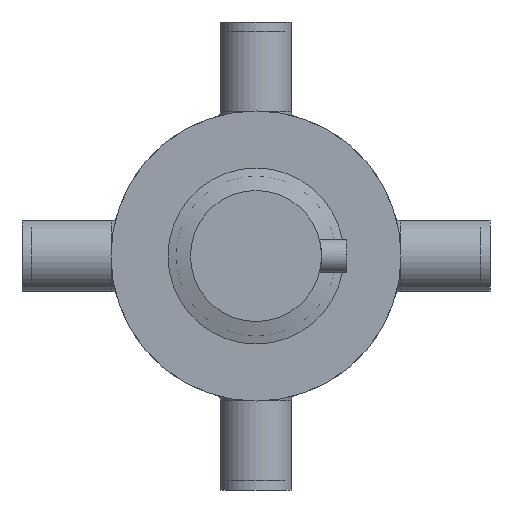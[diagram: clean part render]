
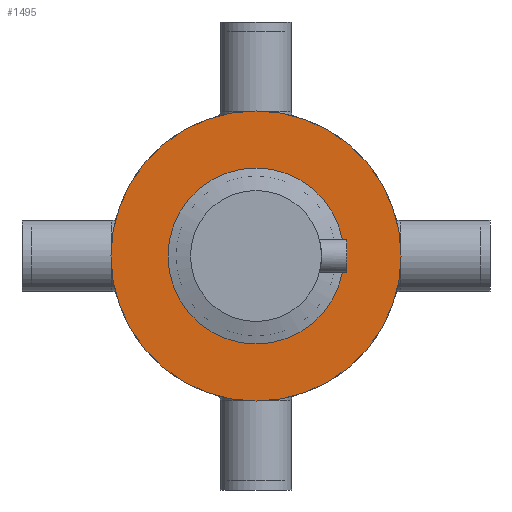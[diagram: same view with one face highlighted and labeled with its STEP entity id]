
A CAD part, front view. The second image highlights one B-rep face of the part: STEP entity #1495.
In plain terms, the highlighted planar face has unit normal (0, -1, 0).
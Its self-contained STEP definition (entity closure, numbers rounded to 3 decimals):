
#101=FACE_BOUND('',#339,.T.);
#132=PLANE('',#1792);
#218=FACE_OUTER_BOUND('',#338,.T.);
#338=EDGE_LOOP('',(#1283,#1284));
#339=EDGE_LOOP('',(#1285,#1286));
#573=CIRCLE('',#1790,42.5);
#574=CIRCLE('',#1791,42.5);
#575=CIRCLE('',#1793,77.5);
#576=CIRCLE('',#1794,77.5);
#729=VERTEX_POINT('',#2871);
#730=VERTEX_POINT('',#2873);
#731=VERTEX_POINT('',#2877);
#732=VERTEX_POINT('',#2878);
#922=EDGE_CURVE('',#730,#729,#573,.T.);
#923=EDGE_CURVE('',#729,#730,#574,.T.);
#924=EDGE_CURVE('',#731,#732,#575,.T.);
#925=EDGE_CURVE('',#732,#731,#576,.T.);
#1283=ORIENTED_EDGE('',*,*,#924,.F.);
#1284=ORIENTED_EDGE('',*,*,#925,.F.);
#1285=ORIENTED_EDGE('',*,*,#922,.T.);
#1286=ORIENTED_EDGE('',*,*,#923,.T.);
#1495=ADVANCED_FACE('',(#218,#101),#132,.F.);
#1790=AXIS2_PLACEMENT_3D('',#2874,#2272,#2273);
#1791=AXIS2_PLACEMENT_3D('',#2875,#2274,#2275);
#1792=AXIS2_PLACEMENT_3D('',#2876,#2276,#2277);
#1793=AXIS2_PLACEMENT_3D('',#2879,#2278,#2279);
#1794=AXIS2_PLACEMENT_3D('',#2880,#2280,#2281);
#2272=DIRECTION('center_axis',(0.,1.,0.));
#2273=DIRECTION('ref_axis',(1.,0.,0.));
#2274=DIRECTION('center_axis',(0.,1.,0.));
#2275=DIRECTION('ref_axis',(1.,0.,0.));
#2276=DIRECTION('center_axis',(0.,1.,0.));
#2277=DIRECTION('ref_axis',(0.,0.,1.));
#2278=DIRECTION('center_axis',(0.,1.,0.));
#2279=DIRECTION('ref_axis',(-1.,0.,0.));
#2280=DIRECTION('center_axis',(0.,1.,0.));
#2281=DIRECTION('ref_axis',(-1.,0.,0.));
#2871=CARTESIAN_POINT('',(42.5,-14.9,0.));
#2873=CARTESIAN_POINT('',(-42.5,-14.9,0.));
#2874=CARTESIAN_POINT('Origin',(0.,-14.9,0.));
#2875=CARTESIAN_POINT('Origin',(0.,-14.9,0.));
#2876=CARTESIAN_POINT('Origin',(-42.5,-14.9,0.));
#2877=CARTESIAN_POINT('',(-77.5,-14.9,0.));
#2878=CARTESIAN_POINT('',(77.5,-14.9,0.));
#2879=CARTESIAN_POINT('Origin',(0.,-14.9,0.));
#2880=CARTESIAN_POINT('Origin',(0.,-14.9,0.));
